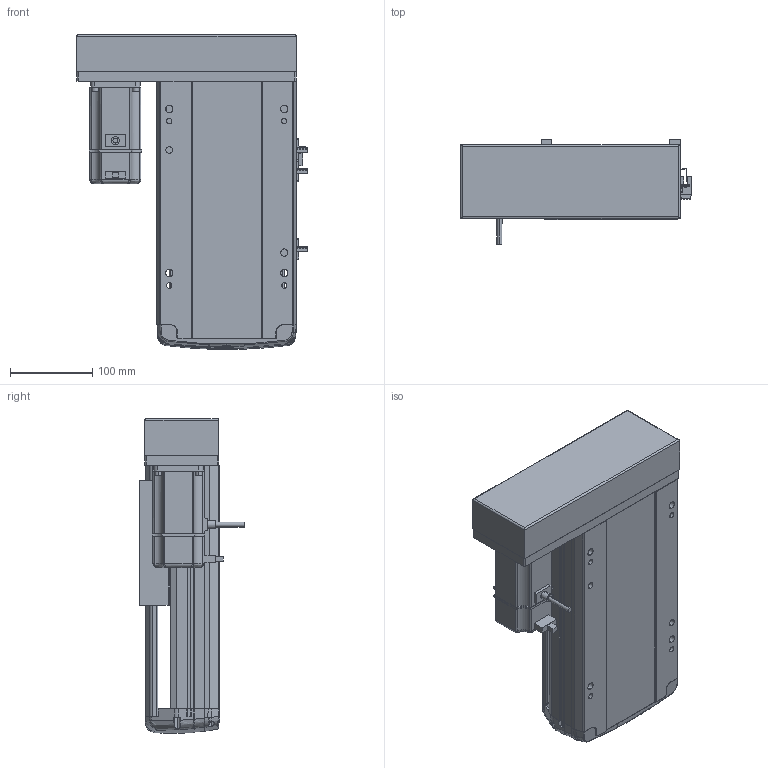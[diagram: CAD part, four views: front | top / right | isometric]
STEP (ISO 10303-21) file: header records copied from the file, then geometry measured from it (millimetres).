
FILE_DESCRIPTION (( 'STEP AP214' ), '1' );
FILE_NAME ('RTH17-XX-100-R-M40-C4.STEP', '2025-10-24T08:52:12', ( '' ), ( '' ), 'SwSTEP 2.0', 'SolidWorks 2018', '' );
FILE_SCHEMA (( 'AUTOMOTIVE_DESIGN' ));
Length unit declared in the file: millimetre
Products named in the file (10): RTH17-XX-100-R-M40-C4; N_RTH17-E-004丝杆螺母连接座^RTH17-XX-XX-R-M40-C4（方程式）; N_RTH-BL-012 感应片(外置)^RTH17-XX-XX-R-M40-C4（方程式）; N_RTH17-M-007上盖^RTH17-XX-XX-R-M40-C4（方程式）; N_M40^RTH17-XX-XX-R-M40-C4（方程式）; N_RTH17-M-011底座^RTH17-XX-XX-R-M40-C4（方程式）; N_OMRON EE-SX672 換覜ん^RTH17-XX-XX-R-M40-C4ㄗ源最宒ㄘ; N_RTH17-L-018盖子^RTH17-XX-XX-R-M40-C4（方程式）; N_RTH17-L-008-P40电机安装板左转折^RTH17-XX-XX-R-M40-C4（方程式）; N_RTH17-GY-001P^RTH17-XX-XX-R-M40-C4（方程式）
Assembly tree (11 placements, depth 2):
  RTH17-XX-100-R-M40-C4
    N_RTH17-M-011底座^RTH17-XX-XX-R-M40-C4（方程式）
    N_RTH17-M-007上盖^RTH17-XX-XX-R-M40-C4（方程式）
    N_M40^RTH17-XX-XX-R-M40-C4（方程式）
    N_OMRON EE-SX672 換覜ん^RTH17-XX-XX-R-M40-C4ㄗ源最宒ㄘ  x3
    N_RTH-BL-012 感应片(外置)^RTH17-XX-XX-R-M40-C4（方程式）
    N_RTH17-L-008-P40电机安装板左转折^RTH17-XX-XX-R-M40-C4（方程式）
    N_RTH17-L-018盖子^RTH17-XX-XX-R-M40-C4（方程式）
    N_RTH17-E-004丝杆螺母连接座^RTH17-XX-XX-R-M40-C4（方程式）
    N_RTH17-GY-001P^RTH17-XX-XX-R-M40-C4（方程式）
Bounding box: 280.5 x 127 x 383.07 mm (x, y, z)
Volume: 4633471.3 mm3; surface area: 610411.5 mm2
Topology: 13 solids, 15 shells, 1599 faces, 4413 edges, 2874 vertices
Faces by surface type: plane 827, cylinder 405, bspline 330, cone 28, torus 9
Entity records: 45666 total; most frequent: CARTESIAN_POINT 18619, ORIENTED_EDGE 5850, DIRECTION 4819, EDGE_CURVE 2929, VERTEX_POINT 1910, VECTOR 1693, LINE 1693, AXIS2_PLACEMENT_3D 1563
